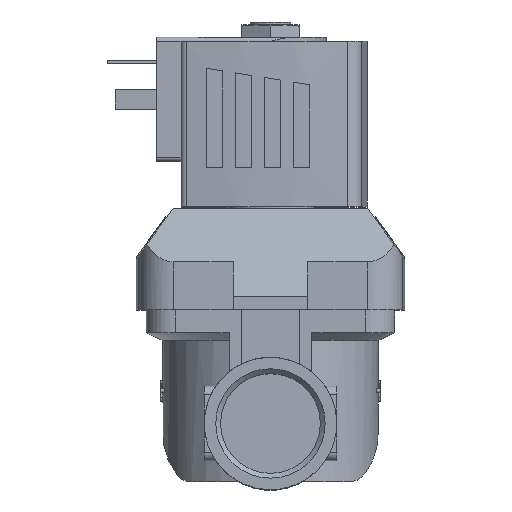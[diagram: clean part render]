
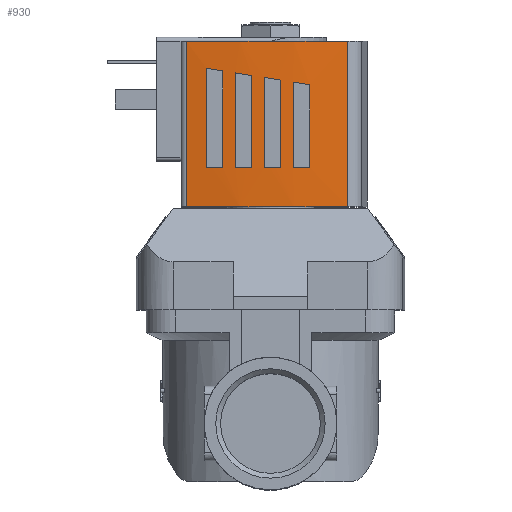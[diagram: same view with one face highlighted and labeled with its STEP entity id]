
A CAD part, top view. The second image highlights one B-rep face of the part: STEP entity #930.
In plain terms, the highlighted cylindrical face has radius 130 mm (diameter 260 mm), a partial arc.
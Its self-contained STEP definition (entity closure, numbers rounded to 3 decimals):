
#930 = ADVANCED_FACE( '', ( #1947, #1948, #1949, #1950, #1951 ), #1952, .T. );
#1947 = FACE_BOUND( '', #3045, .T. );
#1948 = FACE_BOUND( '', #3046, .T. );
#1949 = FACE_OUTER_BOUND( '', #3047, .T. );
#1950 = FACE_BOUND( '', #3048, .T. );
#1951 = FACE_BOUND( '', #3049, .T. );
#1952 = CYLINDRICAL_SURFACE( '', #3050, 130. );
#3045 = EDGE_LOOP( '', ( #5640, #5641, #5642, #5643 ) );
#3046 = EDGE_LOOP( '', ( #5644, #5645, #5646, #5647 ) );
#3047 = EDGE_LOOP( '', ( #5648, #5649, #5650, #5651 ) );
#3048 = EDGE_LOOP( '', ( #5652, #5653, #5654, #5655 ) );
#3049 = EDGE_LOOP( '', ( #5656, #5657, #5658, #5659 ) );
#3050 = AXIS2_PLACEMENT_3D( '', #5660, #5661, #5662 );
#5640 = ORIENTED_EDGE( '', *, *, #7589, .F. );
#5641 = ORIENTED_EDGE( '', *, *, #6805, .F. );
#5642 = ORIENTED_EDGE( '', *, *, #7567, .F. );
#5643 = ORIENTED_EDGE( '', *, *, #6662, .F. );
#5644 = ORIENTED_EDGE( '', *, *, #7434, .F. );
#5645 = ORIENTED_EDGE( '', *, *, #7590, .F. );
#5646 = ORIENTED_EDGE( '', *, *, #7514, .F. );
#5647 = ORIENTED_EDGE( '', *, *, #6925, .F. );
#5648 = ORIENTED_EDGE( '', *, *, #7591, .T. );
#5649 = ORIENTED_EDGE( '', *, *, #7580, .F. );
#5650 = ORIENTED_EDGE( '', *, *, #7562, .F. );
#5651 = ORIENTED_EDGE( '', *, *, #7592, .T. );
#5652 = ORIENTED_EDGE( '', *, *, #7462, .F. );
#5653 = ORIENTED_EDGE( '', *, *, #7593, .F. );
#5654 = ORIENTED_EDGE( '', *, *, #7594, .F. );
#5655 = ORIENTED_EDGE( '', *, *, #6559, .F. );
#5656 = ORIENTED_EDGE( '', *, *, #7293, .F. );
#5657 = ORIENTED_EDGE( '', *, *, #6727, .F. );
#5658 = ORIENTED_EDGE( '', *, *, #7192, .F. );
#5659 = ORIENTED_EDGE( '', *, *, #7290, .F. );
#5660 = CARTESIAN_POINT( '', ( 0., 14., -110. ) );
#5661 = DIRECTION( '', ( 0., 1., 0. ) );
#5662 = DIRECTION( '', ( 0., 0., -1. ) );
#6559 = EDGE_CURVE( '', #7828, #7830, #7831, .T. );
#6662 = EDGE_CURVE( '', #8010, #8012, #8013, .T. );
#6727 = EDGE_CURVE( '', #8124, #8126, #8127, .F. );
#6805 = EDGE_CURVE( '', #8256, #8258, #8259, .F. );
#6925 = EDGE_CURVE( '', #8460, #8462, #8463, .T. );
#7192 = EDGE_CURVE( '', #8868, #8124, #8870, .T. );
#7290 = EDGE_CURVE( '', #9014, #8868, #9016, .T. );
#7293 = EDGE_CURVE( '', #8126, #9014, #9019, .T. );
#7434 = EDGE_CURVE( '', #9207, #8460, #9209, .T. );
#7462 = EDGE_CURVE( '', #9242, #7828, #9244, .T. );
#7514 = EDGE_CURVE( '', #8462, #9312, #9313, .T. );
#7562 = EDGE_CURVE( '', #9370, #9372, #9373, .T. );
#7567 = EDGE_CURVE( '', #8012, #8256, #9378, .T. );
#7580 = EDGE_CURVE( '', #9372, #9390, #9392, .T. );
#7589 = EDGE_CURVE( '', #8258, #8010, #9403, .T. );
#7590 = EDGE_CURVE( '', #9312, #9207, #9404, .F. );
#7591 = EDGE_CURVE( '', #9405, #9390, #9406, .T. );
#7592 = EDGE_CURVE( '', #9370, #9405, #9407, .T. );
#7593 = EDGE_CURVE( '', #9408, #9242, #9409, .F. );
#7594 = EDGE_CURVE( '', #7830, #9408, #9410, .T. );
#7828 = VERTEX_POINT( '', #9693 );
#7830 = VERTEX_POINT( '', #9696 );
#7831 = LINE( '', #9697, #9698 );
#8010 = VERTEX_POINT( '', #9971 );
#8012 = VERTEX_POINT( '', #9974 );
#8013 = LINE( '', #9975, #9976 );
#8124 = VERTEX_POINT( '', #10129 );
#8126 = VERTEX_POINT( '', #10132 );
#8127 = LINE( '', #10133, #10134 );
#8256 = VERTEX_POINT( '', #10330 );
#8258 = VERTEX_POINT( '', #10333 );
#8259 = LINE( '', #10334, #10335 );
#8460 = VERTEX_POINT( '', #10635 );
#8462 = VERTEX_POINT( '', #10638 );
#8463 = LINE( '', #10639, #10640 );
#8868 = VERTEX_POINT( '', #11341 );
#8870 = CIRCLE( '', #11344, 130. );
#9014 = VERTEX_POINT( '', #11562 );
#9016 = LINE( '', #11565, #11566 );
#9019 = ELLIPSE( '', #11570, 131.653, 130. );
#9207 = VERTEX_POINT( '', #11886 );
#9209 = ELLIPSE( '', #11889, 131.653, 130. );
#9242 = VERTEX_POINT( '', #11966 );
#9244 = ELLIPSE( '', #11969, 131.653, 130. );
#9312 = VERTEX_POINT( '', #12067 );
#9313 = CIRCLE( '', #12068, 130. );
#9370 = VERTEX_POINT( '', #12160 );
#9372 = VERTEX_POINT( '', #12162 );
#9373 = CIRCLE( '', #12163, 130. );
#9378 = CIRCLE( '', #12168, 130. );
#9390 = VERTEX_POINT( '', #12182 );
#9392 = LINE( '', #12184, #12185 );
#9403 = ELLIPSE( '', #12200, 131.653, 130. );
#9404 = LINE( '', #12201, #12202 );
#9405 = VERTEX_POINT( '', #12203 );
#9406 = CIRCLE( '', #12204, 130. );
#9407 = LINE( '', #12205, #12206 );
#9408 = VERTEX_POINT( '', #12207 );
#9409 = LINE( '', #12208, #12209 );
#9410 = CIRCLE( '', #12210, 130. );
#9693 = CARTESIAN_POINT( '', ( -8.5, 6.38, 19.722 ) );
#9696 = CARTESIAN_POINT( '', ( -8.5, -16.5, 19.722 ) );
#9697 = CARTESIAN_POINT( '', ( -8.5, 14., 19.722 ) );
#9698 = VECTOR( '', #12504, 1000. );
#9971 = CARTESIAN_POINT( '', ( -1.5, 5.26, 19.991 ) );
#9974 = CARTESIAN_POINT( '', ( -1.5, -16.5, 19.991 ) );
#9975 = CARTESIAN_POINT( '', ( -1.5, 14., 19.991 ) );
#9976 = VECTOR( '', #12607, 1000. );
#10129 = CARTESIAN_POINT( '', ( 9.5, -16.5, 19.652 ) );
#10132 = CARTESIAN_POINT( '', ( 9.5, 3.5, 19.652 ) );
#10133 = CARTESIAN_POINT( '', ( 9.5, 14., 19.652 ) );
#10134 = VECTOR( '', #12684, 1000. );
#10330 = CARTESIAN_POINT( '', ( 2.5, -16.5, 19.976 ) );
#10333 = CARTESIAN_POINT( '', ( 2.5, 4.62, 19.976 ) );
#10334 = CARTESIAN_POINT( '', ( 2.5, 14., 19.976 ) );
#10335 = VECTOR( '', #12766, 1000. );
#10635 = CARTESIAN_POINT( '', ( -15.5, 7.5, 19.073 ) );
#10638 = CARTESIAN_POINT( '', ( -15.5, -16.5, 19.073 ) );
#10639 = CARTESIAN_POINT( '', ( -15.5, 14., 19.073 ) );
#10640 = VECTOR( '', #12897, 1000. );
#11341 = CARTESIAN_POINT( '', ( 5.5, -16.5, 19.884 ) );
#11344 = AXIS2_PLACEMENT_3D( '', #13209, #13210, #13211 );
#11562 = CARTESIAN_POINT( '', ( 5.5, 4.14, 19.884 ) );
#11565 = CARTESIAN_POINT( '', ( 5.5, 14., 19.884 ) );
#11566 = VECTOR( '', #13325, 1000. );
#11570 = AXIS2_PLACEMENT_3D( '', #13327, #13328, #13329 );
#11886 = CARTESIAN_POINT( '', ( -11.5, 6.86, 19.49 ) );
#11889 = AXIS2_PLACEMENT_3D( '', #13492, #13493, #13494 );
#11966 = CARTESIAN_POINT( '', ( -4.5, 5.74, 19.922 ) );
#11969 = AXIS2_PLACEMENT_3D( '', #13529, #13530, #13531 );
#12067 = CARTESIAN_POINT( '', ( -11.5, -16.5, 19.49 ) );
#12068 = AXIS2_PLACEMENT_3D( '', #13587, #13588, #13589 );
#12160 = CARTESIAN_POINT( '', ( -20.382, 14., 18.392 ) );
#12162 = CARTESIAN_POINT( '', ( 18.639, 14., 18.657 ) );
#12163 = AXIS2_PLACEMENT_3D( '', #13658, #13659, #13660 );
#12168 = AXIS2_PLACEMENT_3D( '', #13667, #13668, #13669 );
#12182 = CARTESIAN_POINT( '', ( 18.639, -26., 18.657 ) );
#12184 = CARTESIAN_POINT( '', ( 18.639, 14., 18.657 ) );
#12185 = VECTOR( '', #13684, 1000. );
#12200 = AXIS2_PLACEMENT_3D( '', #13689, #13690, #13691 );
#12201 = CARTESIAN_POINT( '', ( -11.5, 14., 19.49 ) );
#12202 = VECTOR( '', #13692, 1000. );
#12203 = CARTESIAN_POINT( '', ( -20.382, -26., 18.392 ) );
#12204 = AXIS2_PLACEMENT_3D( '', #13693, #13694, #13695 );
#12205 = CARTESIAN_POINT( '', ( -20.382, 14., 18.392 ) );
#12206 = VECTOR( '', #13696, 1000. );
#12207 = CARTESIAN_POINT( '', ( -4.5, -16.5, 19.922 ) );
#12208 = CARTESIAN_POINT( '', ( -4.5, 14., 19.922 ) );
#12209 = VECTOR( '', #13697, 1000. );
#12210 = AXIS2_PLACEMENT_3D( '', #13698, #13699, #13700 );
#12504 = DIRECTION( '', ( 0., -1., 0. ) );
#12607 = DIRECTION( '', ( 0., -1., 0. ) );
#12684 = DIRECTION( '', ( 0., -1., 0. ) );
#12766 = DIRECTION( '', ( 0., -1., 0. ) );
#12897 = DIRECTION( '', ( 0., -1., 0. ) );
#13209 = CARTESIAN_POINT( '', ( 0., -16.5, -110. ) );
#13210 = DIRECTION( '', ( 0., 1., 0. ) );
#13211 = DIRECTION( '', ( 0., 0., 1. ) );
#13325 = DIRECTION( '', ( 0., -1., 0. ) );
#13327 = CARTESIAN_POINT( '', ( 0., 5.02, -110. ) );
#13328 = DIRECTION( '', ( -0.158, -0.987, 0. ) );
#13329 = DIRECTION( '', ( 0.987, -0.158, 0. ) );
#13492 = CARTESIAN_POINT( '', ( 0., 5.02, -110. ) );
#13493 = DIRECTION( '', ( -0.158, -0.987, 0. ) );
#13494 = DIRECTION( '', ( 0.987, -0.158, 0. ) );
#13529 = CARTESIAN_POINT( '', ( 0., 5.02, -110. ) );
#13530 = DIRECTION( '', ( -0.158, -0.987, 0. ) );
#13531 = DIRECTION( '', ( 0.987, -0.158, 0. ) );
#13587 = CARTESIAN_POINT( '', ( 0., -16.5, -110. ) );
#13588 = DIRECTION( '', ( 0., 1., 0. ) );
#13589 = DIRECTION( '', ( 0., 0., 1. ) );
#13658 = CARTESIAN_POINT( '', ( 0., 14., -110. ) );
#13659 = DIRECTION( '', ( 0., 1., 0. ) );
#13660 = DIRECTION( '', ( 1., 0., 0. ) );
#13667 = CARTESIAN_POINT( '', ( 0., -16.5, -110. ) );
#13668 = DIRECTION( '', ( 0., 1., 0. ) );
#13669 = DIRECTION( '', ( 0., 0., 1. ) );
#13684 = DIRECTION( '', ( 0., -1., 0. ) );
#13689 = CARTESIAN_POINT( '', ( 0., 5.02, -110. ) );
#13690 = DIRECTION( '', ( -0.158, -0.987, 0. ) );
#13691 = DIRECTION( '', ( 0.987, -0.158, 0. ) );
#13692 = DIRECTION( '', ( 0., -1., 0. ) );
#13693 = CARTESIAN_POINT( '', ( 0., -26., -110. ) );
#13694 = DIRECTION( '', ( 0., 1., 0. ) );
#13695 = DIRECTION( '', ( 1., 0., 0. ) );
#13696 = DIRECTION( '', ( 0., -1., 0. ) );
#13697 = DIRECTION( '', ( 0., -1., 0. ) );
#13698 = CARTESIAN_POINT( '', ( 0., -16.5, -110. ) );
#13699 = DIRECTION( '', ( 0., 1., 0. ) );
#13700 = DIRECTION( '', ( 0., 0., 1. ) );
